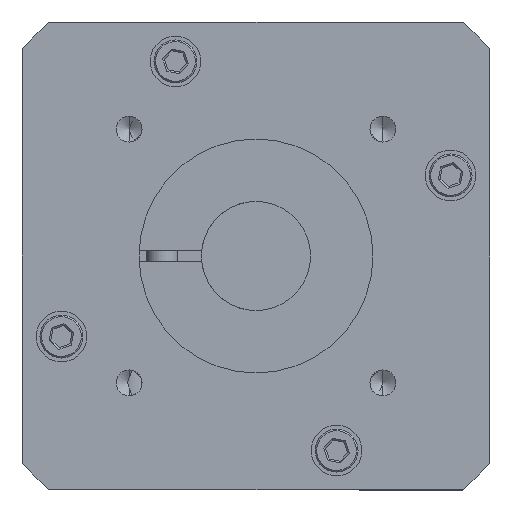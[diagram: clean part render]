
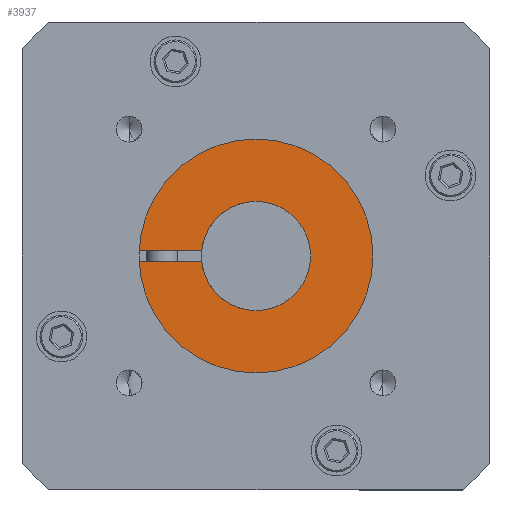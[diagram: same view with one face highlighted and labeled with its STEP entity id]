
A CAD part, front view. The second image highlights one B-rep face of the part: STEP entity #3937.
In plain terms, the highlighted planar face has unit normal (0, -1, 0).
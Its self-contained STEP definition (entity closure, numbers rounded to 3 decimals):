
#3311 = VERTEX_POINT ( 'NONE', #10482 ) ;
#3349 = VERTEX_POINT ( 'NONE', #10359 ) ;
#3350 = EDGE_CURVE ( 'NONE', #3364, #3349, #10521, .T. ) ;
#3364 = VERTEX_POINT ( 'NONE', #10437 ) ;
#3403 = VERTEX_POINT ( 'NONE', #10551 ) ;
#3404 = EDGE_CURVE ( 'NONE', #3311, #3403, #10600, .T. ) ;
#3559 = VERTEX_POINT ( 'NONE', #11031 ) ;
#3567 = EDGE_CURVE ( 'NONE', #3779, #3748, #11046, .T. ) ;
#3660 = VERTEX_POINT ( 'NONE', #11245 ) ;
#3665 = EDGE_CURVE ( 'NONE', #3559, #3779, #11255, .T. ) ;
#3748 = VERTEX_POINT ( 'NONE', #11324 ) ;
#3766 = EDGE_CURVE ( 'NONE', #3748, #3660, #11273, .T. ) ;
#3779 = VERTEX_POINT ( 'NONE', #11365 ) ;
#3785 = ORIENTED_EDGE ( 'NONE', *, *, #3766, .T. ) ;
#3786 = EDGE_CURVE ( 'NONE', #3559, #3311, #11348, .T. ) ;
#3787 = ORIENTED_EDGE ( 'NONE', *, *, #3786, .F. ) ;
#3789 = ORIENTED_EDGE ( 'NONE', *, *, #3567, .T. ) ;
#3799 = ORIENTED_EDGE ( 'NONE', *, *, #3350, .F. ) ;
#3807 = ORIENTED_EDGE ( 'NONE', *, *, #3665, .T. ) ;
#3868 = ORIENTED_EDGE ( 'NONE', *, *, #3871, .F. ) ;
#3870 = ORIENTED_EDGE ( 'NONE', *, *, #3404, .F. ) ;
#3871 = EDGE_CURVE ( 'NONE', #3349, #3660, #11557, .T. ) ;
#3882 = EDGE_CURVE ( 'NONE', #3403, #3364, #11539, .T. ) ;
#3937 = ADVANCED_FACE ( 'NONE', ( #11481 ), #11077, .T. ) ;
#3950 = EDGE_LOOP ( 'NONE', ( #3868, #3799, #4006, #3870, #3787, #3807, #3789, #3785 ) ) ;
#4006 = ORIENTED_EDGE ( 'NONE', *, *, #3882, .F. ) ;
#10359 = CARTESIAN_POINT ( 'NONE',  ( -6.96, 0., 0.75 ) ) ;
#10437 = CARTESIAN_POINT ( 'NONE',  ( 0., 0., 7. ) ) ;
#10482 = CARTESIAN_POINT ( 'NONE',  ( -6.96, 0., -0.75 ) ) ;
#10517 = DIRECTION ( 'NONE',  ( 0., 0., -1. ) ) ;
#10518 = DIRECTION ( 'NONE',  ( 0., -1., 0. ) ) ;
#10519 = CARTESIAN_POINT ( 'NONE',  ( 0., 0., 0. ) ) ;
#10520 = AXIS2_PLACEMENT_3D ( 'NONE', #10519, #10518, #10517 ) ;
#10521 = CIRCLE ( 'NONE', #10520, 7. ) ;
#10551 = CARTESIAN_POINT ( 'NONE',  ( 0., 0., -7. ) ) ;
#10558 = CARTESIAN_POINT ( 'NONE',  ( 0., 0., 0. ) ) ;
#10600 = CIRCLE ( 'NONE', #10650, 7. ) ;
#10601 = DIRECTION ( 'NONE',  ( 0., -1., 0. ) ) ;
#10649 = DIRECTION ( 'NONE',  ( 0., 0., -1. ) ) ;
#10650 = AXIS2_PLACEMENT_3D ( 'NONE', #10558, #10601, #10649 ) ;
#10800 = DIRECTION ( 'NONE',  ( 0., 0., -1. ) ) ;
#10801 = DIRECTION ( 'NONE',  ( 0., -1., 0. ) ) ;
#10926 = CARTESIAN_POINT ( 'NONE',  ( 0., 0., 0. ) ) ;
#11009 = DIRECTION ( 'NONE',  ( 0., 0., -1. ) ) ;
#11010 = DIRECTION ( 'NONE',  ( 0., -1., 0. ) ) ;
#11031 = CARTESIAN_POINT ( 'NONE',  ( -16.483, 0., -0.75 ) ) ;
#11046 = CIRCLE ( 'NONE', #11047, 16.5 ) ;
#11047 = AXIS2_PLACEMENT_3D ( 'NONE', #10926, #11010, #11009 ) ;
#11075 = CARTESIAN_POINT ( 'NONE',  ( 0., 0., 0. ) ) ;
#11076 = AXIS2_PLACEMENT_3D ( 'NONE', #11075, #10801, #10800 ) ;
#11077 = PLANE ( 'NONE',  #11076 ) ;
#11152 = DIRECTION ( 'NONE',  ( 0., -1., 0. ) ) ;
#11153 = CARTESIAN_POINT ( 'NONE',  ( 0., 0., 0. ) ) ;
#11244 = AXIS2_PLACEMENT_3D ( 'NONE', #11153, #11152, #11264 ) ;
#11245 = CARTESIAN_POINT ( 'NONE',  ( -16.483, 0., 0.75 ) ) ;
#11255 = CIRCLE ( 'NONE', #11244, 16.5 ) ;
#11264 = DIRECTION ( 'NONE',  ( 0., 0., -1. ) ) ;
#11272 = CARTESIAN_POINT ( 'NONE',  ( 0., 0., 0. ) ) ;
#11273 = CIRCLE ( 'NONE', #11437, 16.5 ) ;
#11324 = CARTESIAN_POINT ( 'NONE',  ( 0., 0., 16.5 ) ) ;
#11347 = CARTESIAN_POINT ( 'NONE',  ( -5.198, 0., -0.75 ) ) ;
#11348 = LINE ( 'NONE', #11347, #11397 ) ;
#11365 = CARTESIAN_POINT ( 'NONE',  ( 0., 0., -16.5 ) ) ;
#11396 = DIRECTION ( 'NONE',  ( 1., 0., 0. ) ) ;
#11397 = VECTOR ( 'NONE', #11396, 1000. ) ;
#11435 = DIRECTION ( 'NONE',  ( 0., 0., -1. ) ) ;
#11436 = DIRECTION ( 'NONE',  ( 0., -1., 0. ) ) ;
#11437 = AXIS2_PLACEMENT_3D ( 'NONE', #11272, #11436, #11435 ) ;
#11473 = DIRECTION ( 'NONE',  ( -1., 0., 0. ) ) ;
#11474 = VECTOR ( 'NONE', #11473, 1000. ) ;
#11481 = FACE_OUTER_BOUND ( 'NONE', #3950, .T. ) ;
#11503 = DIRECTION ( 'NONE',  ( 0., -1., 0. ) ) ;
#11506 = CARTESIAN_POINT ( 'NONE',  ( 0., 0., 0. ) ) ;
#11535 = AXIS2_PLACEMENT_3D ( 'NONE', #11506, #11503, #11616 ) ;
#11539 = CIRCLE ( 'NONE', #11535, 7. ) ;
#11556 = CARTESIAN_POINT ( 'NONE',  ( -5.198, 0., 0.75 ) ) ;
#11557 = LINE ( 'NONE', #11556, #11474 ) ;
#11616 = DIRECTION ( 'NONE',  ( 0., 0., -1. ) ) ;
